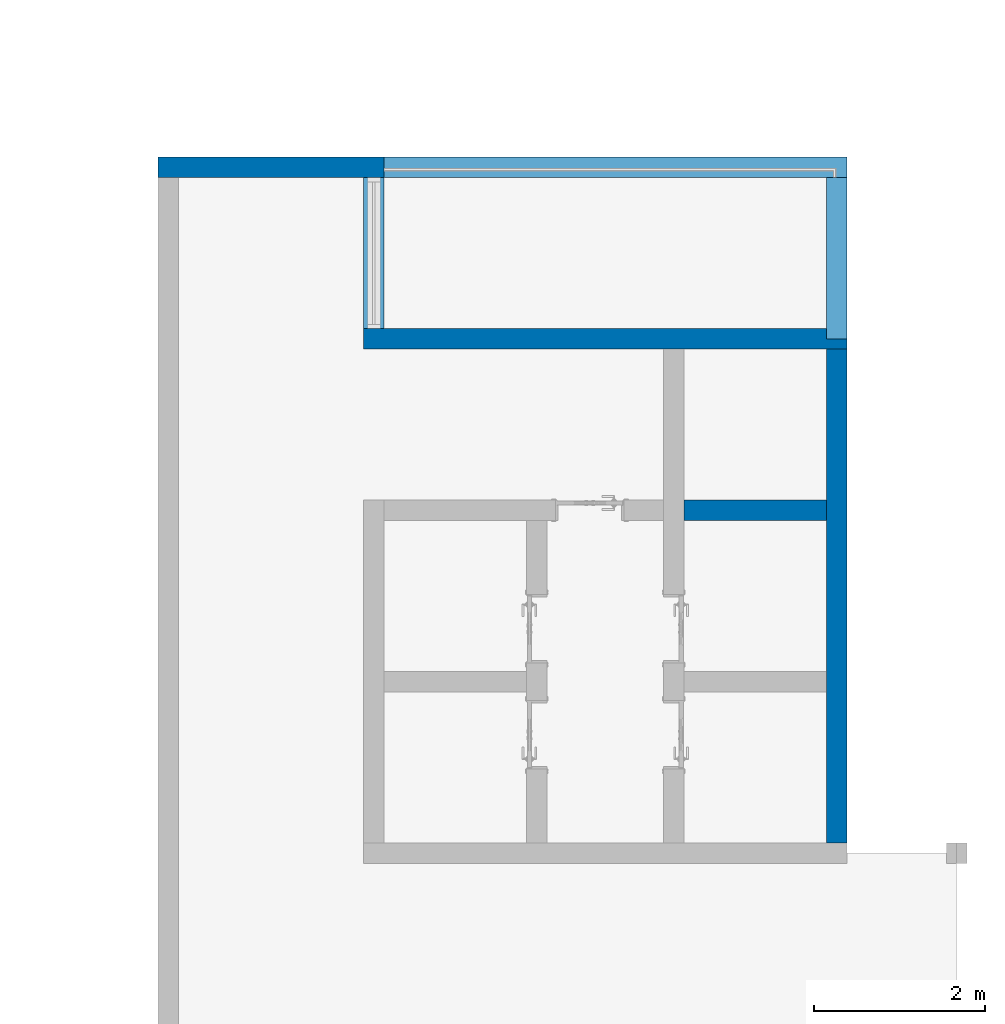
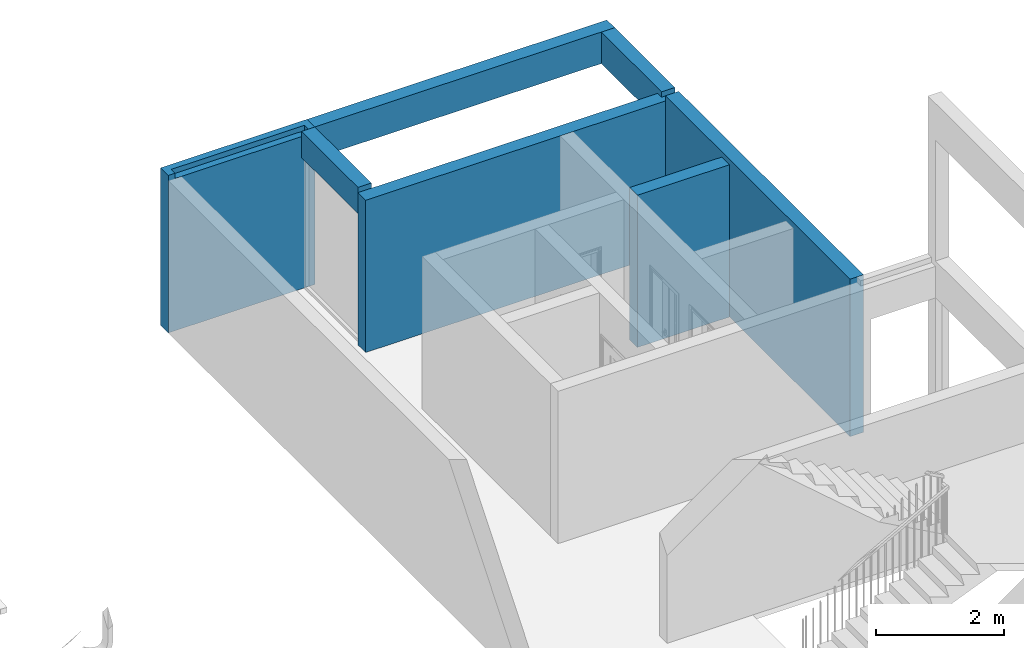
# One storey, part 11 of 16: 7 walls, 1 opening.
"""IFC2X3 building model written with IfcOpenShell, lengths in millimetres."""

import ifcopenshell
import ifcopenshell.guid

model = None  # the IFC model being written
_history = None  # IfcOwnerHistory: only IFC2X3 demands one
_inside = {}  # id of a spatial element -> (the spatial element, [elements in it])
_under = {}  # id of a project, library or spatial element -> (it, [spatial elements below it])
_declared = {}  # id of a project -> (the project, [libraries it declares])
_typed = {}  # id of a type object -> (the type object, [elements of that type])
_made_of = {}  # id of a material, layer set ... -> (it, [elements and type objects made of it])


def new_model(schema):
    """Start an empty IFC model of exactly this schema.

    Asked for "IFC4X3", IfcOpenShell would pick the latest addendum, in which some entities
    have other attributes; the version numbers below select the first issue.
    IFC2X3 requires an IfcOwnerHistory on every rooted entity: one is made here for all.
    """
    global model, _history
    if schema == "IFC4X3":
        model = ifcopenshell.file(schema_version=(4, 3, 0, 0))
    else:
        model = ifcopenshell.file(schema=schema)
    _inside.clear()
    _under.clear()
    _declared.clear()
    _typed.clear()
    _made_of.clear()
    _history = None
    if model.schema == "IFC2X3":
        org = make("IfcOrganization", Name="unknown")
        user = make(
            "IfcPersonAndOrganization",
            ThePerson=make("IfcPerson", FamilyName="unknown"),
            TheOrganization=org,
        )
        app = make(
            "IfcApplication",
            ApplicationDeveloper=org,
            Version="unknown",
            ApplicationFullName="unknown",
            ApplicationIdentifier="unknown",
        )
        _history = make(
            "IfcOwnerHistory",
            OwningUser=user,
            OwningApplication=app,
            ChangeAction="ADDED",
            CreationDate=0,
        )
    return model


def make(cls, **values):
    """One entity of the class cls with the attributes given. An attribute that is None is left unset."""
    return model.create_entity(
        cls, **{name: value for name, value in values.items() if value is not None}
    )


def entity(cls, *values):
    """Any entity or typed value of the class cls, its attributes in the order of the schema. None: left unset."""
    e = model.create_entity(cls)
    for i, value in enumerate(values):
        if value is not None:
            e[i] = value
    return e


def rooted(cls, **values):
    """An entity with a GlobalId (a new one), such as an element, a storey or a relation."""
    return make(cls, GlobalId=ifcopenshell.guid.new(), OwnerHistory=_history, **values)


def si_unit(unit_type, name, prefix=None):
    """IfcSIUnit, for example si_unit("LENGTHUNIT", "METRE", prefix="MILLI")."""
    return make("IfcSIUnit", UnitType=unit_type, Prefix=prefix, Name=name)


def converted_unit(unit_type, name, factor, base, dimensions=None, offset=None):
    """IfcConversionBasedUnit, such as the inch: factor (a typed value) times the base unit."""
    return make(
        "IfcConversionBasedUnit"
        if offset is None
        else "IfcConversionBasedUnitWithOffset",
        ConversionOffset=offset,
        Dimensions=None
        if dimensions is None
        else entity("IfcDimensionalExponents", *dimensions),
        UnitType=unit_type,
        Name=name,
        ConversionFactor=make(
            "IfcMeasureWithUnit", ValueComponent=factor, UnitComponent=base
        ),
    )


def derived_unit(unit_type, elements):
    """IfcDerivedUnit: a product of units, each with its exponent."""
    return make(
        "IfcDerivedUnit",
        Elements=[
            make("IfcDerivedUnitElement", Unit=unit, Exponent=power)
            for unit, power in elements
        ],
        UnitType=unit_type,
    )


def assignment(units):
    """IfcUnitAssignment: the units of a project."""
    return None if units is None else make("IfcUnitAssignment", Units=units)


def point(xyz):
    """IfcCartesianPoint."""
    return None if xyz is None else make("IfcCartesianPoint", Coordinates=xyz)


def direction(xyz):
    """IfcDirection."""
    return None if xyz is None else make("IfcDirection", DirectionRatios=xyz)


def frame(location, z_axis=None, x_axis=None):
    """IfcAxis2Placement3D, a coordinate frame: its origin and axes. An axis left out is left unset."""
    return make(
        "IfcAxis2Placement3D",
        Location=point(location),
        Axis=direction(z_axis),
        RefDirection=direction(x_axis),
    )


def frame_2d(location, x_axis=None):
    """IfcAxis2Placement2D, a coordinate frame in the plane: its origin and x axis."""
    return make(
        "IfcAxis2Placement2D", Location=point(location), RefDirection=direction(x_axis)
    )


def origin():
    """The frame at (0, 0, 0) with its axes left unset."""
    return frame((0.0, 0.0, 0.0))


def origin_2d_with_axis():
    """The frame at (0, 0) in the plane with the x axis (1, 0) written out."""
    return frame_2d((0.0, 0.0), x_axis=(1.0, 0.0))


def place(relative_to, where):
    """IfcLocalPlacement: puts the frame where relative to a parent placement (None: the world)."""
    return make(
        "IfcLocalPlacement", PlacementRelTo=relative_to, RelativePlacement=where
    )


def context(
    kind, dimensions, precision=None, world=None, true_north=None, identifier=None
):
    """IfcGeometricRepresentationContext, for example the 3D "Model" context."""
    return make(
        "IfcGeometricRepresentationContext",
        ContextIdentifier=identifier,
        ContextType=kind,
        CoordinateSpaceDimension=dimensions,
        Precision=precision,
        WorldCoordinateSystem=world,
        TrueNorth=true_north,
    )


def subcontext(parent, identifier, kind, view, scale=None):
    """IfcGeometricRepresentationSubContext, for example "Body" below "Model"."""
    return make(
        "IfcGeometricRepresentationSubContext",
        ContextIdentifier=identifier,
        ContextType=kind,
        ParentContext=parent,
        TargetScale=scale,
        TargetView=view,
    )


def project(units=None, contexts=None):
    """IfcProject with its units and contexts."""
    return rooted(
        "IfcProject",
        Name="project",
        RepresentationContexts=contexts,
        UnitsInContext=assignment(units),
    )


def spatial(cls, under=None, at=None, **own):
    """A site, building, storey or space (cls), placed at a placement, below another one or the project."""
    s = rooted(cls, ObjectPlacement=at, **own)
    if under is not None:
        _under.setdefault(under.id(), (under, []))[1].append(s)
    return s


def polyline(points):
    """IfcPolyline through the points."""
    return make("IfcPolyline", Points=[point(p) for p in points])


def profile(cls, at=None, kind="AREA", **sizes):
    """A parametric profile (cls). Its sizes go by their IFC names, for example OverallWidth=200.0."""
    return make(cls, ProfileType=kind, Position=at, **sizes)


def rectangle(**sizes):
    """IfcRectangleProfileDef."""
    return profile("IfcRectangleProfileDef", **sizes)


def extrude(swept, where, along, depth):
    """IfcExtrudedAreaSolid: the profile swept, set in the frame where, extruded along a direction by depth."""
    return make(
        "IfcExtrudedAreaSolid",
        SweptArea=swept,
        Position=where,
        ExtrudedDirection=direction(along),
        Depth=depth,
    )


def clip(a, b, op="DIFFERENCE"):
    """IfcBooleanClippingResult: the solid a cut by the half space b."""
    return make(
        "IfcBooleanClippingResult", Operator=op, FirstOperand=a, SecondOperand=b
    )


def bounded_halfspace(plane, agree, where, boundary):
    """IfcPolygonalBoundedHalfSpace: a half space limited to a polygon's prism."""
    return make(
        "IfcPolygonalBoundedHalfSpace",
        BaseSurface=make("IfcPlane", Position=plane),
        AgreementFlag=agree,
        Position=where,
        PolygonalBoundary=boundary,
    )


def shape(context_of_items, identifier, shape_type, items):
    """IfcShapeRepresentation: the items that make up one representation, for example the "Body"."""
    return make(
        "IfcShapeRepresentation",
        ContextOfItems=context_of_items,
        RepresentationIdentifier=identifier,
        RepresentationType=shape_type,
        Items=items,
    )


def material(Name=None, Category=None):
    """IfcMaterial."""
    return make("IfcMaterial", Name=Name, Category=Category)


def layer(
    of_material, thickness, ventilated=None, Name=None, Category=None, Priority=None
):
    """IfcMaterialLayer: one layer of a wall or slab, of a material (None: an air gap)."""
    return make(
        "IfcMaterialLayer",
        Material=of_material,
        LayerThickness=thickness,
        IsVentilated=ventilated,
        Name=Name,
        Category=Category,
        Priority=Priority,
    )


def layer_set(layers, Name=None):
    """IfcMaterialLayerSet."""
    return make("IfcMaterialLayerSet", MaterialLayers=layers, LayerSetName=Name)


def layer_usage(for_layer_set, set_direction, sense, offset, extent=None):
    """IfcMaterialLayerSetUsage: how a layer set lies in its element."""
    return make(
        "IfcMaterialLayerSetUsage",
        ForLayerSet=for_layer_set,
        LayerSetDirection=set_direction,
        DirectionSense=sense,
        OffsetFromReferenceLine=offset,
        ReferenceExtent=extent,
    )


def made_of(thing, what):
    """Note that an element or type object is made of a material, layer set ...; save() writes the relation."""
    if what is not None:
        _made_of.setdefault(what.id(), (what, []))[1].append(thing)
    return thing


def type_object(cls, material=None, **own):
    """A type object (cls), such as IfcWallType, which elements share."""
    return made_of(rooted(cls, **own), material)


def element(
    cls,
    number,
    at=None,
    inside=None,
    cuts=None,
    type_object=None,
    material=None,
    context=None,
    identifier="Body",
    shape_type=None,
    held_by="IfcProductDefinitionShape",
    body=None,
    shapes=None,
    **own,
):
    """One element of the class cls, such as IfcWall. Its Tag is "e" and its number.

    at: its placement. inside: the storey or other place that contains it. cuts: it is an
    opening in that element (IfcRelVoidsElement). A single representation is given by context,
    identifier, shape_type and body (its items); several are given by shapes. held_by: the class
    of the entity that holds the representations. save() writes the other relations.
    """
    e = rooted(cls, Tag="e%d" % number, ObjectPlacement=at, **own)
    if body is not None:
        shapes = [shape(context, identifier, shape_type, body)]
    if shapes is not None:
        e.Representation = make(held_by, Representations=shapes)
    if inside is not None:
        _inside.setdefault(inside.id(), (inside, []))[1].append(e)
    if cuts is not None:
        rooted(
            "IfcRelVoidsElement", RelatingBuildingElement=cuts, RelatedOpeningElement=e
        )
    if type_object is not None:
        _typed.setdefault(type_object.id(), (type_object, []))[1].append(e)
    return made_of(e, material)


def aggregate(whole, parts):
    """IfcRelAggregates: a whole, such as a stair, and the parts it consists of."""
    return rooted("IfcRelAggregates", RelatingObject=whole, RelatedObjects=parts)


def save(model, path):
    """Write the relations noted so far, then the file.

    IfcRelAggregates (storeys below a building ...), IfcRelContainedInSpatialStructure (elements
    in a storey), IfcRelDefinesByType, IfcRelAssociatesMaterial and IfcRelDeclares: one each for
    every whole, place, type object, material and project.
    """
    for whole, parts in _under.values():
        aggregate(whole, parts)
    for where, things in _inside.values():
        rooted(
            "IfcRelContainedInSpatialStructure",
            RelatedElements=things,
            RelatingStructure=where,
        )
    for kind, things in _typed.values():
        rooted("IfcRelDefinesByType", RelatedObjects=things, RelatingType=kind)
    for what, things in _made_of.values():
        rooted("IfcRelAssociatesMaterial", RelatedObjects=things, RelatingMaterial=what)
    for by, libraries in _declared.values():
        rooted("IfcRelDeclares", RelatingContext=by, RelatedDefinitions=libraries)
    model.write(path)


model = new_model("IFC2X3")

# Units and contexts
model_context = context("Model", 3, precision=0.01, world=origin(), true_north=direction((6.12303176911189e-17, 1.0)))
body_context = subcontext(model_context, "Body", "Model", "MODEL_VIEW")
ifc_project = project(units=[si_unit("LENGTHUNIT", "METRE", prefix="MILLI"), si_unit("AREAUNIT", "SQUARE_METRE"), si_unit("VOLUMEUNIT", "CUBIC_METRE"), converted_unit("PLANEANGLEUNIT", "DEGREE", entity("IfcRatioMeasure", 0.0174532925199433), si_unit("PLANEANGLEUNIT", "RADIAN"), dimensions=[0, 0, 0, 0, 0, 0, 0]), si_unit("MASSUNIT", "GRAM", prefix="KILO"), derived_unit("MASSDENSITYUNIT", [(si_unit("MASSUNIT", "GRAM", prefix="KILO"), 1), (si_unit("LENGTHUNIT", "METRE"), -3)]), si_unit("TIMEUNIT", "SECOND"), si_unit("FREQUENCYUNIT", "HERTZ"), si_unit("THERMODYNAMICTEMPERATUREUNIT", "DEGREE_CELSIUS"), derived_unit("THERMALTRANSMITTANCEUNIT", [(si_unit("MASSUNIT", "GRAM", prefix="KILO"), 1), (si_unit("THERMODYNAMICTEMPERATUREUNIT", "KELVIN"), -1), (si_unit("TIMEUNIT", "SECOND"), -3)]), derived_unit("VOLUMETRICFLOWRATEUNIT", [(si_unit("LENGTHUNIT", "METRE"), 3), (si_unit("TIMEUNIT", "SECOND"), -1)]), si_unit("ELECTRICCURRENTUNIT", "AMPERE"), si_unit("ELECTRICVOLTAGEUNIT", "VOLT"), si_unit("POWERUNIT", "WATT"), si_unit("FORCEUNIT", "NEWTON", prefix="KILO"), si_unit("ILLUMINANCEUNIT", "LUX"), si_unit("LUMINOUSFLUXUNIT", "LUMEN"), si_unit("LUMINOUSINTENSITYUNIT", "CANDELA"), derived_unit("USERDEFINED", [(si_unit("MASSUNIT", "GRAM", prefix="KILO"), -1), (si_unit("LENGTHUNIT", "METRE"), -2), (si_unit("TIMEUNIT", "SECOND"), 3), (si_unit("LUMINOUSFLUXUNIT", "LUMEN"), 1)]), derived_unit("LINEARVELOCITYUNIT", [(si_unit("LENGTHUNIT", "METRE"), 1), (si_unit("TIMEUNIT", "SECOND"), -1)]), si_unit("PRESSUREUNIT", "PASCAL"), derived_unit("USERDEFINED", [(si_unit("LENGTHUNIT", "METRE"), -2), (si_unit("MASSUNIT", "GRAM", prefix="KILO"), 1), (si_unit("TIMEUNIT", "SECOND"), -2)])], contexts=[model_context])

# Site, building, storey
site_placement = place(None, origin())
site = spatial("IfcSite", under=ifc_project, at=site_placement, Name="表面", CompositionType="ELEMENT")
building_placement = place(site_placement, origin())
building = spatial("IfcBuilding", under=site, at=building_placement, CompositionType="ELEMENT")
storey_placement = place(building_placement, frame((0.0, 0.0, 3000.0)))
storey = spatial("IfcBuildingStorey", under=building, at=storey_placement, Name="2F", CompositionType="ELEMENT", Elevation=3000.00000000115)

# Walls
ifc_material_1 = material(Name="白色涂料")
ifc_layer_1 = layer(ifc_material_1, 10.0)
ifc_material_2 = material(Name="默认墙")
ifc_layer_2 = layer(ifc_material_2, 220.0)
ifc_layer_3 = layer(ifc_material_1, 10.0)
ifc_layer_set = layer_set([ifc_layer_1, ifc_layer_2, ifc_layer_3], Name="基本墙:粉刷墙240")
ifc_layer_usage_1 = layer_usage(ifc_layer_set, "AXIS2", "NEGATIVE", 120.0)
wall_type = type_object("IfcWallType", Name="基本墙:粉刷墙240", PredefinedType="STANDARD", material=ifc_layer_set)
wall_1_placement = place(storey_placement, frame((-6510.24991264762, 3683.131573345, 0.0), z_axis=(0.0, 0.0, 1.0), x_axis=(-1.0, 0.0, 0.0)))
element("IfcWallStandardCase", 1, at=wall_1_placement, inside=storey, type_object=wall_type, material=ifc_layer_usage_1, Name="基本墙:粉刷墙240", ObjectType="基本墙:粉刷墙240", context=body_context, shape_type="Clipping", body=[
    clip(extrude(rectangle(XDim=5640.0, YDim=240.0, at=frame_2d((2820.0, 1.35003119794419e-13), x_axis=(-1.0, 0.0))), origin(), (0.0, 0.0, 1.0), 2900.0), bounded_halfspace(frame((5520.0, -120.0, 2900.0), z_axis=(0.0, 0.0, -1.0), x_axis=(0.0, 1.0, 0.0)), True, frame((5520.0, -120.0, 2900.0)), polyline([(0.0, 0.0), (120.0, 0.0), (120.0, 240.0), (0.0, 240.0), (-3380.0, 240.0), (-3620.0, 240.0), (-5400.0, 240.0), (-5400.0, 120.0), (0.0, 120.0), (0.0, 0.0)]))),
])
ifc_layer_usage_2 = layer_usage(ifc_layer_set, "AXIS2", "NEGATIVE", 120.0)
wall_2_placement = place(storey_placement, frame((-6630.24991264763, -2196.86842665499, 0.0), z_axis=(0.0, 0.0, 1.0), x_axis=(0.0, 1.0, 0.0)))
element("IfcWallStandardCase", 2, at=wall_2_placement, inside=storey, type_object=wall_type, material=ifc_layer_usage_2, Name="基本墙:粉刷墙240", ObjectType="基本墙:粉刷墙240", context=body_context, shape_type="SweptSolid", body=[
    extrude(rectangle(XDim=5759.99999999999, YDim=240.0, at=frame_2d((2880.0, -1.91846538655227e-13), x_axis=(-1.0, 0.0))), origin(), (0.0, 0.0, 1.0), 3000.0),
])
ifc_layer_usage_3 = layer_usage(ifc_layer_set, "AXIS2", "NEGATIVE", 120.0)
wall_3_placement = place(storey_placement, frame((-8410.24991264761, 1683.13157334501, 0.0)))
element("IfcWallStandardCase", 3, at=wall_3_placement, inside=storey, type_object=wall_type, material=ifc_layer_usage_3, Name="基本墙:粉刷墙240", ObjectType="基本墙:粉刷墙240", context=body_context, shape_type="Clipping", body=[
    clip(extrude(rectangle(XDim=1659.99999999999, YDim=240.0, at=frame_2d((829.999999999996, -1.13686837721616e-13), x_axis=(-1.0, 0.0))), origin(), (0.0, 0.0, 1.0), 2900.0), bounded_halfspace(frame((0.0, -120.0, 2900.0), z_axis=(0.0, 0.0, -1.0), x_axis=(0.0, -1.0, 0.0)), True, frame((0.0, -120.0, 2900.0)), polyline([(0.0, 0.0), (1660.0, 0.0), (1660.0, 240.0), (0.0, 240.0), (0.0, 0.0)]))),
])
ifc_layer_usage_4 = layer_usage(ifc_layer_set, "AXIS2", "NEGATIVE", 120.0)
wall_4_placement = place(storey_placement, frame((-11910.2499126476, 5683.13157334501, 0.0), z_axis=(0.0, 0.0, 1.0), x_axis=(-1.0, 0.0, 0.0)))
element("IfcWallStandardCase", 4, at=wall_4_placement, inside=storey, type_object=wall_type, material=ifc_layer_usage_4, Name="基本墙:粉刷墙240", ObjectType="基本墙:粉刷墙240", context=body_context, shape_type="Clipping", body=[
    clip(clip(clip(clip(extrude(rectangle(XDim=2639.99999999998, YDim=240.0, at=frame_2d((1319.99999999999, 3.83693077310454e-13), x_axis=(-1.0, 0.0))), origin(), (0.0, 0.0, 1.0), 3000.0), bounded_halfspace(frame((2520.0, 0.0, 2900.0), z_axis=(0.0, 0.0, -1.0), x_axis=(0.0, 1.0, 0.0)), True, frame((2520.0, 0.0, 2900.0)), polyline([(0.0, 0.0), (0.0, 120.0), (-120.0, 120.0), (-2400.0, 120.0), (-2400.0, 0.0), (0.0, 0.0)]))), bounded_halfspace(frame((2520.0, -120.0, 3000.0), z_axis=(0.0, 0.0, -1.0), x_axis=(0.0, -1.0, 0.0)), True, frame((2520.0, -120.0, 3000.0)), polyline([(0.0, 0.0), (120.0, 0.0), (120.0, 240.0), (0.0, 240.0), (0.0, 120.0), (0.0, 0.0)]))), bounded_halfspace(frame((0.0, -120.0, 3000.0), z_axis=(0.0, 0.0, -1.0), x_axis=(0.0, -1.0, 0.0)), True, frame((0.0, -120.0, 3000.0)), polyline([(0.0, 0.0), (120.0, 0.0), (2520.0, 0.0), (2520.0, 120.0), (120.0, 120.0), (120.0, 240.0), (0.0, 240.0), (0.0, 0.0)]))), bounded_halfspace(frame((2520.0, 0.0, 2900.0), z_axis=(0.0, 0.0, -1.0), x_axis=(0.0, 1.0, 0.0)), True, frame((2520.0, 0.0, 2900.0)), polyline([(0.0, 0.0), (0.0, 120.0), (-120.0, 120.0), (-2400.0, 120.0), (-2400.0, 0.0), (0.0, 0.0)]))),
])

# Wall, opening
ifc_layer_usage_5 = layer_usage(ifc_layer_set, "AXIS2", "NEGATIVE", 120.0)
wall_5_placement = place(storey_placement, frame((-12030.2499126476, 5563.13157334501, 2500.0), z_axis=(0.0, 0.0, 1.0), x_axis=(0.0, -1.0, 0.0)))
wall_5 = element("IfcWallStandardCase", 5, at=wall_5_placement, inside=storey, type_object=wall_type, material=ifc_layer_usage_5, Name="基本墙:粉刷墙240", ObjectType="基本墙:粉刷墙240", context=body_context, shape_type="SweptSolid", body=[
    extrude(rectangle(XDim=1760.0, YDim=240.000000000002, at=frame_2d((880.0, -1.27897692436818e-13), x_axis=(-1.0, 0.0))), origin(), (0.0, 0.0, 1.0), 499.999999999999),
])
opening_placement = place(wall_5_placement, origin())
element("IfcOpeningElement", 6, at=opening_placement, cuts=wall_5, Name="基本墙:粉刷墙240", ObjectType="Opening", context=body_context, shape_type="SweptSolid", body=[
    extrude(rectangle(XDim=2500.0, YDim=1760.0, at=origin_2d_with_axis()), frame((880.0, -272.399999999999, -1250.0), z_axis=(0.0, 1.0, 0.0), x_axis=(0.0, 0.0, 1.0)), (0.0, 0.0, 1.0), 544.799999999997),
])

# Walls
ifc_layer_usage_6 = layer_usage(ifc_layer_set, "AXIS2", "NEGATIVE", 120.0)
wall_6_placement = place(storey_placement, frame((-11910.2499126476, 5683.13157334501, 2400.0)))
element("IfcWallStandardCase", 7, at=wall_6_placement, inside=storey, type_object=wall_type, material=ifc_layer_usage_6, Name="基本墙:粉刷墙240", ObjectType="基本墙:粉刷墙240", context=body_context, shape_type="SweptSolid", body=[
    extrude(rectangle(XDim=5400.00000000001, YDim=240.0, at=frame_2d((2700.0, 0.0), x_axis=(-1.0, 0.0))), origin(), (0.0, 0.0, 1.0), 600.0),
])
ifc_layer_usage_7 = layer_usage(ifc_layer_set, "AXIS2", "NEGATIVE", 120.0)
wall_7_placement = place(storey_placement, frame((-6630.24991264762, 5563.131573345, 2400.0), z_axis=(0.0, 0.0, 1.0), x_axis=(0.0, -1.0, 0.0)))
element("IfcWallStandardCase", 8, at=wall_7_placement, inside=storey, type_object=wall_type, material=ifc_layer_usage_7, Name="基本墙:粉刷墙240", ObjectType="基本墙:粉刷墙240", context=body_context, shape_type="SweptSolid", body=[
    extrude(rectangle(XDim=1880.0, YDim=240.0, at=frame_2d((940.0, -9.9475983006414e-14), x_axis=(-1.0, 0.0))), origin(), (0.0, 0.0, 1.0), 600.0),
])

save(model, "model.ifc")
